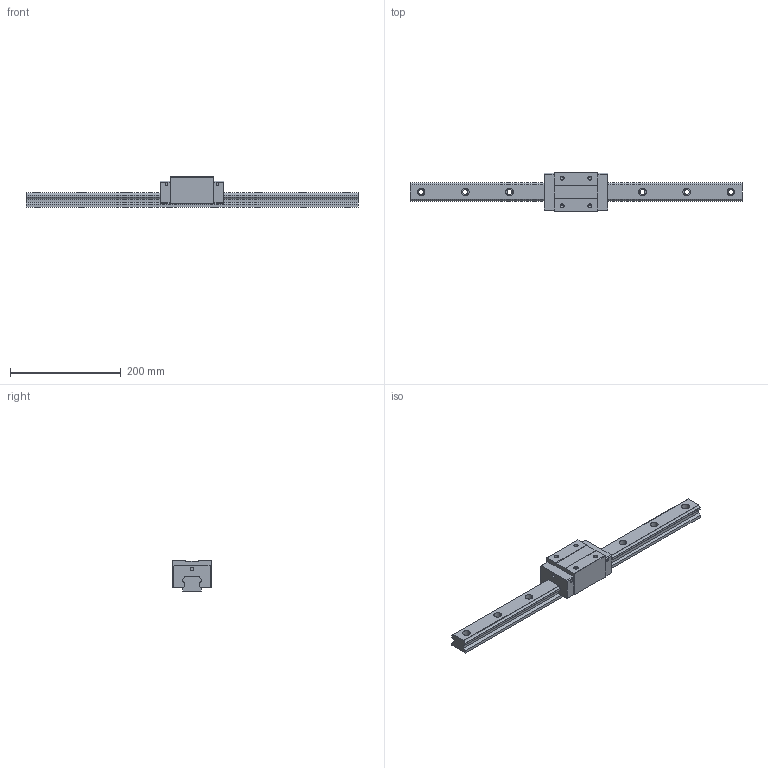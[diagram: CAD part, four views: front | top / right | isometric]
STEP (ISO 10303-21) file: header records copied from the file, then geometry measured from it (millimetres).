
FILE_DESCRIPTION (( 'STEP AP203' ), '1' );
FILE_NAME ('TRH35VN-SU.STEP', '2024-06-26T05:27:07', ( '' ), ( '' ), 'SwSTEP 2.0', 'SolidWorks 2022', '' );
FILE_SCHEMA (( 'CONFIG_CONTROL_DESIGN' ));
Length unit declared in the file: millimetre
Products named in the file (1): TRH35VN-SU
Bounding box: 600 x 70 x 55 mm (x, y, z)
Volume: 739165.6 mm3; surface area: 120425.7 mm2
Topology: 2 solids, 2 shells, 186 faces, 488 edges, 316 vertices
Faces by surface type: cylinder 88, plane 82, cone 16
Entity records: 5819 total; most frequent: DIRECTION 1038, CARTESIAN_POINT 983, ORIENTED_EDGE 960, EDGE_CURVE 480, AXIS2_PLACEMENT_3D 371, VERTEX_POINT 316, LINE 296, VECTOR 296
